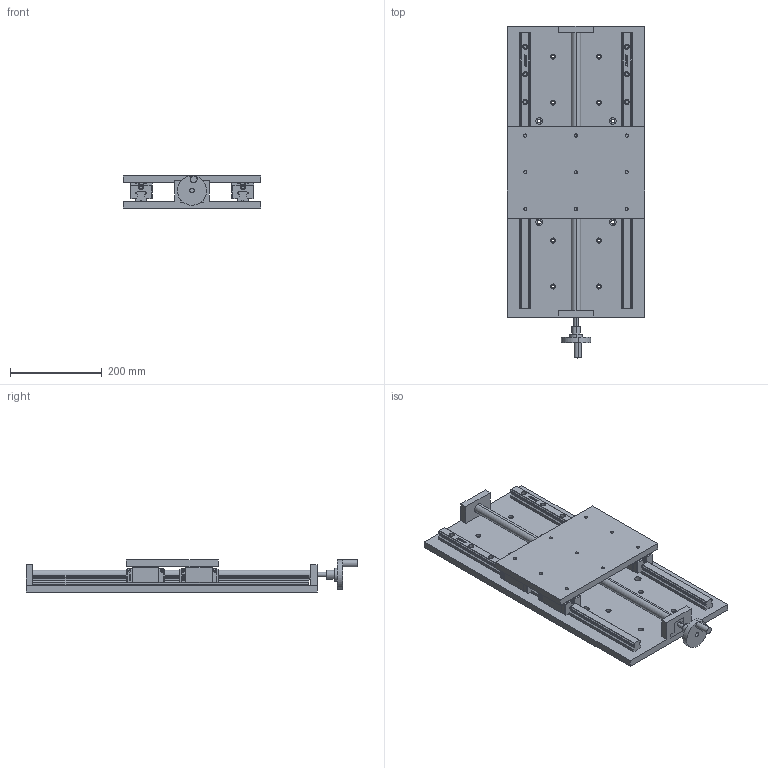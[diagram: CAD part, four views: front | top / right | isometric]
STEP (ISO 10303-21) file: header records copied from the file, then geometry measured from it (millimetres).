
FILE_DESCRIPTION (( 'STEP AP214' ), '1' );
FILE_NAME ('PT300-400.STEP', '2022-09-18T06:06:18', ( '' ), ( '' ), 'SwSTEP 2.0', 'SolidWorks 2017', '' );
FILE_SCHEMA (( 'AUTOMOTIVE_DESIGN' ));
Length unit declared in the file: millimetre
Products named in the file (12): HGR25_temp-400; 忒謫; HGH25CA2R300Z0C_GW202204023669; PT300-400; 醱啣; 34320001; HGH25C__X2_53F35C01_X0__temp; 菁啣-400; M6H; 標踡輸; 標踡; HGH25C__X2_5DE65C01_X0__temp
Assembly tree (12 placements, depth 3):
  PT300-400
    菁啣-400
    醱啣
    HGH25CA2R300Z0C_GW202204023669  x2
      HGR25_temp-400
      HGH25C__X2_53F35C01_X0__temp
      M6H
      HGH25C__X2_5DE65C01_X0__temp
      34320001
    標踡
      標踡輸
      忒謫
Bounding box: 300 x 722.1 x 70.06 mm (x, y, z)
Volume: 4997777.1 mm3; surface area: 857851.2 mm2
Topology: 31 solids, 33 shells, 2846 faces, 7993 edges, 5272 vertices
Faces by surface type: plane 1882, cylinder 774, bspline 126, cone 56, torus 8
Entity records: 64750 total; most frequent: CARTESIAN_POINT 10096, ORIENTED_EDGE 8326, DIRECTION 7837, EDGE_CURVE 4163, VECTOR 3049, LINE 3049, VERTEX_POINT 2761, AXIS2_PLACEMENT_3D 2394
